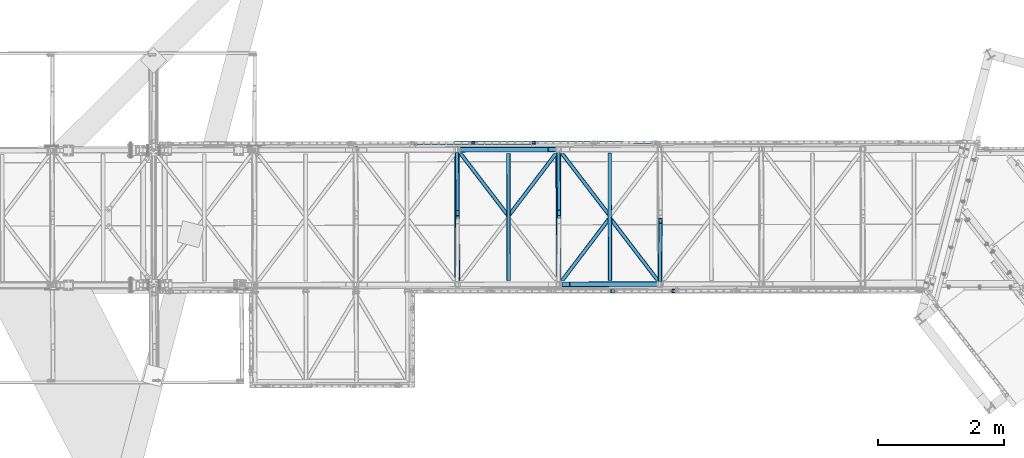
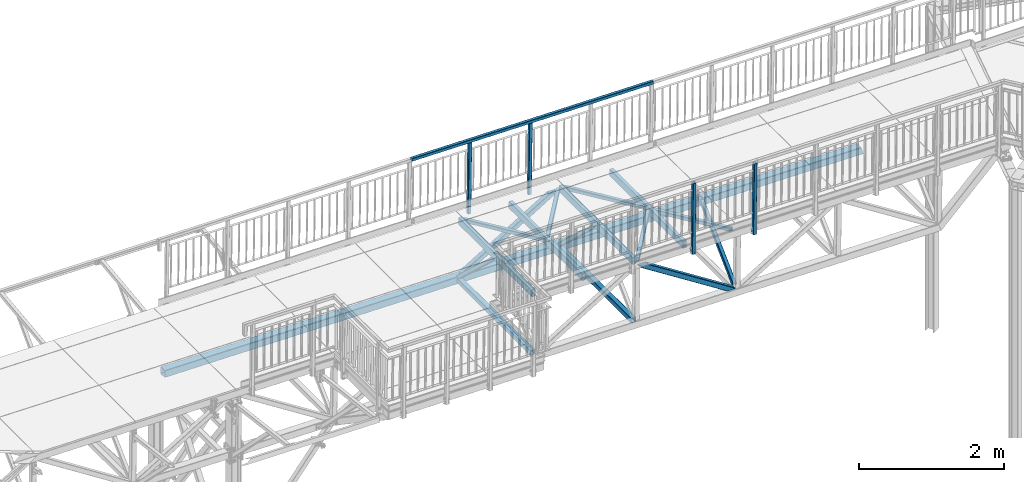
# One storey, part 59 of 169: 22 discrete accessories, 4 elements without a shape of their own.
"""IFC2X3 building model written with IfcOpenShell, lengths in millimetres."""

from ifc_helpers import new_model, si_unit, frame, origin_with_axes, origin_2d_with_axis, place, context, subcontext, project, spatial, rectangle, hollow_rectangle, extrude, boolean, clip, halfspace, material, type_object, element, aggregate, save


model = new_model("IFC2X3")

# Units and contexts
model_context = context("Model", 3, precision=1e-05, world=origin_with_axes())
body_context = subcontext(model_context, "Body", "Model", "MODEL_VIEW")
ifc_project = project(units=[si_unit("LENGTHUNIT", "METRE", prefix="MILLI"), si_unit("AREAUNIT", "SQUARE_METRE"), si_unit("VOLUMEUNIT", "CUBIC_METRE"), si_unit("MASSUNIT", "GRAM", prefix="KILO"), si_unit("TIMEUNIT", "SECOND"), si_unit("PLANEANGLEUNIT", "RADIAN"), si_unit("SOLIDANGLEUNIT", "STERADIAN"), si_unit("THERMODYNAMICTEMPERATUREUNIT", "DEGREE_CELSIUS"), si_unit("LUMINOUSINTENSITYUNIT", "LUMEN")], contexts=[model_context])

# Site, building, storey
site_placement = place(None, origin_with_axes())
site = spatial("IfcSite", under=ifc_project, at=site_placement, Name="Undefined", CompositionType="ELEMENT")
building_placement = place(site_placement, origin_with_axes())
building = spatial("IfcBuilding", under=site, at=building_placement, Name="Undefined", CompositionType="ELEMENT")
storey_placement = place(building_placement, origin_with_axes())
storey = spatial("IfcBuildingStorey", under=building, at=storey_placement, Name="Undefined", CompositionType="ELEMENT", Elevation=0.0)

# Assembly, discrete accessories
assembly_1_placement = place(storey_placement, origin_with_axes())
assembly_1 = element("IfcElementAssembly", 1, at=assembly_1_placement, inside=storey, Name="Steel Assembly", AssemblyPlace="NOTDEFINED", PredefinedType="RIGID_FRAME")
ifc_material_1 = material(Name="STEEL/S355")
discrete_accessory_type_1 = type_object("IfcDiscreteAccessoryType", Name="BEAM")
discrete_accessory_1_placement = place(assembly_1_placement, frame((12562.2974376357, 128.440972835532, 13794.5528924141), z_axis=(0.538381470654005, 0.00100403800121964, 0.842700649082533), x_axis=(0.842699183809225, 0.00157148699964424, -0.538382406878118)))
discrete_accessory_1 = element("IfcDiscreteAccessory", 2, at=discrete_accessory_1_placement, type_object=discrete_accessory_type_1, material=ifc_material_1, Name="BEAM", ObjectType="K80/4", context=body_context, shape_type="CSG", body=[
    boolean("DIFFERENCE", boolean("DIFFERENCE", boolean("DIFFERENCE", boolean("DIFFERENCE", extrude(hollow_rectangle(XDim=80.0, YDim=80.0, WallThickness=4.0, InnerFilletRadius=4.0, OuterFilletRadius=8.0, at=origin_2d_with_axis()), frame((1895.28365458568, 2.8368149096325e-14, 0.0), z_axis=(-1.0, -3.46944695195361e-18, -1.38777878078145e-17), x_axis=(1.73472347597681e-18, -1.0, 0.0)), (0.0, 0.0, 1.0), 1895.28), extrude(rectangle(XDim=122.0, YDim=122.0, at=origin_2d_with_axis()), frame((1733.78268027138, -4.16628931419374e-06, 1076.88375380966), z_axis=(-0.849477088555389, 2.61340201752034e-10, -0.527625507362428), x_axis=(0.527625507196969, -3.47074672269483e-10, -0.849477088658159)), (0.0, 0.0, 1.0), 4082.0)), extrude(rectangle(XDim=82.0, YDim=82.0, at=origin_2d_with_axis()), frame((-1078.99478598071, 3.71883953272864e-07, 1737.1816513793), z_axis=(0.527625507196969, -3.47074672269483e-10, -0.849477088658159), x_axis=(1.73472347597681e-18, -1.0, 0.0)), (0.0, 0.0, 1.0), 4090.0)), extrude(rectangle(XDim=82.0, YDim=82.0, at=origin_2d_with_axis()), frame((799.406100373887, 1.9632717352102e-07, 1764.36290814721), z_axis=(0.527625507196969, -3.47074672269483e-10, -0.849477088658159), x_axis=(1.73472347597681e-18, -1.0, 0.0)), (0.0, 0.0, 1.0), 4154.0)), extrude(rectangle(XDim=122.0, YDim=122.0, at=origin_2d_with_axis()), frame((3629.06603329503, -3.96512357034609e-06, 1076.8835670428), z_axis=(-0.849477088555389, 2.61340201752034e-10, -0.527625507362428), x_axis=(0.527625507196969, -3.47074672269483e-10, -0.849477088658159)), (0.0, 0.0, 1.0), 4082.0)),
])
discrete_accessory_2_placement = place(assembly_1_placement, frame((10935.7263906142, 2265.41144089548, 12815.1018064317), z_axis=(-0.516782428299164, -0.000963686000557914, 0.856116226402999), x_axis=(0.856114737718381, 0.00159654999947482, 0.516783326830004)))
discrete_accessory_2 = element("IfcDiscreteAccessory", 3, at=discrete_accessory_2_placement, type_object=discrete_accessory_type_1, material=ifc_material_1, Name="BEAM", ObjectType="K80/4", context=body_context, shape_type="CSG", body=[
    boolean("DIFFERENCE", boolean("DIFFERENCE", boolean("DIFFERENCE", boolean("DIFFERENCE", extrude(hollow_rectangle(XDim=80.0, YDim=80.0, WallThickness=4.0, InnerFilletRadius=4.0, OuterFilletRadius=8.0, at=origin_2d_with_axis()), frame((1895.28365458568, 2.8368149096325e-14, 0.0), z_axis=(-1.0, -3.46944695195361e-18, -1.38777878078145e-17), x_axis=(1.73472347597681e-18, -1.0, 0.0)), (0.0, 0.0, 1.0), 1895.28), extrude(rectangle(XDim=122.0, YDim=122.0, at=origin_2d_with_axis()), frame((3629.06675549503, -0.000113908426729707, -1076.88375412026), z_axis=(-0.849477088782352, -3.93457825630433e-11, 0.527625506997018), x_axis=(0.527625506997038, -2.13486959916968e-10, 0.849477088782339)), (0.0, 0.0, 1.0), 4082.0)), extrude(rectangle(XDim=82.0, YDim=82.0, at=origin_2d_with_axis()), frame((2982.71976667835, -3.53661638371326e-07, 1750.77218569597), z_axis=(-0.527625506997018, 2.00772915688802e-10, -0.849477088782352), x_axis=(1.73472347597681e-18, -1.0, 0.0)), (0.0, 0.0, 1.0), 4122.0)), extrude(rectangle(XDim=82.0, YDim=82.0, at=origin_2d_with_axis()), frame((1087.43622890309, -6.76905148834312e-07, 1750.7723728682), z_axis=(-0.527625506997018, 2.00772915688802e-10, -0.849477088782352), x_axis=(1.73472347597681e-18, -1.0, 0.0)), (0.0, 0.0, 1.0), 4122.0)), extrude(rectangle(XDim=122.0, YDim=122.0, at=origin_2d_with_axis()), frame((1733.61000419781, -2.8444828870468e-06, -1076.7762420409), z_axis=(-0.849477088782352, -3.93457825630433e-11, 0.527625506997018), x_axis=(-0.527625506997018, 2.00772915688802e-10, -0.849477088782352)), (0.0, 0.0, 1.0), 4081.59)),
])
aggregate(assembly_1, [discrete_accessory_1, discrete_accessory_2])

assembly_2_placement = place(storey_placement, origin_with_axes())
assembly_2 = element("IfcElementAssembly", 4, at=assembly_2_placement, inside=storey, Name="Steel Assembly", AssemblyPlace="NOTDEFINED", PredefinedType="RIGID_FRAME")
discrete_accessory_3_placement = place(assembly_2_placement, frame((13365.2635850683, 1184.94032548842, 13784.3187510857), z_axis=(-0.793802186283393, -0.608092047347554, 0.0101069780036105), x_axis=(0.608043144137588, -0.793866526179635, -0.00771190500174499)))
discrete_accessory_3 = element("IfcDiscreteAccessory", 5, at=discrete_accessory_3_placement, type_object=discrete_accessory_type_1, material=ifc_material_1, Name="BEAM", ObjectType="K60/4", context=body_context, shape_type="CSG", body=[
    boolean("DIFFERENCE", boolean("DIFFERENCE", boolean("DIFFERENCE", extrude(hollow_rectangle(XDim=60.0, YDim=60.0, WallThickness=4.0, InnerFilletRadius=4.0, OuterFilletRadius=8.0, at=origin_2d_with_axis()), frame((1327.04560324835, -1.81783837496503e-12, 1.8913063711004e-12), z_axis=(-1.0, -3.46944695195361e-18, -1.38777878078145e-17), x_axis=(1.73472347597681e-18, -1.0, 0.0)), (0.0, 0.0, 1.0), 1317.77), extrude(rectangle(XDim=122.0, YDim=122.0, at=origin_2d_with_axis()), frame((2559.07206009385, 0.000108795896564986, -1614.6431455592), z_axis=(-0.606610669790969, 1.9093520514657e-10, 0.794999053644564), x_axis=(1.73472347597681e-18, -1.0, 0.0)), (0.0, 0.0, 1.0), 4062.0)), extrude(rectangle(XDim=62.0, YDim=122.0, at=origin_2d_with_axis()), frame((-311.447359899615, 7.92361939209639e-07, -1250.22452235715), z_axis=(0.794999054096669, -5.08714775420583e-10, 0.606610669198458), x_axis=(0.606610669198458, -3.85695368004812e-10, -0.79499905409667)), (0.0, 0.0, 1.0), 4122.0)), halfspace(frame((813.19737539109, -1.17615854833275e-08, 582.760697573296), z_axis=(0.606610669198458, -3.85695368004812e-10, -0.79499905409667), x_axis=(0.0, 1.0, 0.0)), True)),
])
discrete_accessory_4_placement = place(assembly_2_placement, frame((12558.3066592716, 2268.43735667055, 13794.5527999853), z_axis=(-0.793802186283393, -0.608092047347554, 0.0101069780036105), x_axis=(0.608043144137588, -0.793866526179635, -0.00771190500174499)))
discrete_accessory_4 = element("IfcDiscreteAccessory", 6, at=discrete_accessory_4_placement, type_object=discrete_accessory_type_1, material=ifc_material_1, Name="BEAM", ObjectType="K60/4", context=body_context, shape_type="CSG", body=[
    boolean("DIFFERENCE", boolean("DIFFERENCE", boolean("DIFFERENCE", extrude(hollow_rectangle(XDim=60.0, YDim=60.0, WallThickness=4.0, InnerFilletRadius=4.0, OuterFilletRadius=8.0, at=origin_2d_with_axis()), frame((1317.7688721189, 1.14298229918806e-15, -1.89206883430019e-12), z_axis=(-1.0, -3.46944695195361e-18, -1.38777878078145e-17), x_axis=(1.73472347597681e-18, -1.0, 0.0)), (0.0, 0.0, 1.0), 1317.77), extrude(rectangle(XDim=122.0, YDim=122.0, at=origin_2d_with_axis()), frame((1232.02636237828, 0.000109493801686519, -1614.64300936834), z_axis=(-0.606610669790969, 1.9093520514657e-10, 0.794999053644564), x_axis=(0.0, 1.0, 0.0)), (0.0, 0.0, 1.0), 4062.0)), extrude(rectangle(XDim=62.0, YDim=122.0, at=origin_2d_with_axis()), frame((-1638.49305022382, 1.48884142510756e-06, -1250.22459069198), z_axis=(0.794999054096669, -5.08714775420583e-10, 0.606610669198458), x_axis=(0.606610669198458, -3.85695368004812e-10, -0.79499905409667)), (0.0, 0.0, 1.0), 4122.0)), halfspace(frame((2103.84633729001, 1.13759597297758e-08, 630.460640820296), z_axis=(-0.606610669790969, 1.9093520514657e-10, 0.794999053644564), x_axis=(1.73472347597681e-18, -1.0, 0.0)), True)),
])
discrete_accessory_5_placement = place(assembly_2_placement, frame((12562.2974374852, 128.441077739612, 13794.5528923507), z_axis=(0.796064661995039, -0.605127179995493, -0.0101069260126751), x_axis=(0.605078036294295, 0.796128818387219, -0.00771197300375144)))
discrete_accessory_5 = element("IfcDiscreteAccessory", 7, at=discrete_accessory_5_placement, type_object=discrete_accessory_type_1, material=ifc_material_1, Name="BEAM", ObjectType="K60/4", context=body_context, shape_type="CSG", body=[
    boolean("DIFFERENCE", boolean("DIFFERENCE", boolean("DIFFERENCE", extrude(hollow_rectangle(XDim=60.0, YDim=60.0, WallThickness=4.0, InnerFilletRadius=4.0, OuterFilletRadius=8.0, at=origin_2d_with_axis()), frame((1317.88045895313, 1.14307908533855e-15, -1.87685778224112e-12), z_axis=(-1.0, -3.46944695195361e-18, -1.38777878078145e-17), x_axis=(1.73472347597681e-18, -1.0, 0.0)), (0.0, 0.0, 1.0), 1317.88), extrude(rectangle(XDim=122.0, YDim=122.0, at=origin_2d_with_axis()), frame((1232.02617983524, 0.000108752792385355, 1614.64314702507), z_axis=(-0.606610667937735, 2.83045446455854e-10, -0.794999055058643), x_axis=(1.73472347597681e-18, -1.0, 0.0)), (0.0, 0.0, 1.0), 4062.0)), extrude(rectangle(XDim=62.0, YDim=122.0, at=origin_2d_with_axis()), frame((1638.49296551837, -1.93246750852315e-06, -1250.22451956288), z_axis=(-0.794999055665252, -4.2238609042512e-08, 0.606610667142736), x_axis=(0.606610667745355, -4.65838344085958e-10, 0.794999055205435)), (0.0, 0.0, 1.0), 4122.0)), halfspace(frame((513.848229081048, 1.26783561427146e-08, 582.760696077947), z_axis=(-0.606610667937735, 2.83045446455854e-10, -0.794999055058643), x_axis=(1.73472347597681e-18, -1.0, 0.0)), True)),
])
discrete_accessory_6_placement = place(assembly_2_placement, frame((13367.2310015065, 129.942159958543, 13784.3187967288), z_axis=(0.012713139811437, 2.3750999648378e-05, 0.999919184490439), x_axis=(-0.0018648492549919, 0.999998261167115, -4.2996762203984e-08)))
discrete_accessory_6 = element("IfcDiscreteAccessory", 8, at=discrete_accessory_6_placement, type_object=discrete_accessory_type_1, material=ifc_material_1, Name="BEAM", ObjectType="RHS120*60*3", context=body_context, shape_type="Clipping", body=[
    clip(clip(extrude(hollow_rectangle(XDim=60.0, YDim=120.0, WallThickness=3.0, InnerFilletRadius=3.0, OuterFilletRadius=6.0, at=origin_2d_with_axis()), frame((2079.99988425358, -2.58114747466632e-16, -1.81898421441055e-12), z_axis=(-1.0, -3.46944695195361e-18, -1.38777878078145e-17), x_axis=(1.73472347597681e-18, -1.0, 0.0)), (0.0, 0.0, 1.0), 2020.0), halfspace(frame((2079.99984112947, 4.96547727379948e-08, 999.999997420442), z_axis=(-1.0, -3.46944695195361e-18, -1.38777878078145e-17), x_axis=(1.73472347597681e-18, -1.0, 0.0)), True)), halfspace(frame((59.9998947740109, 1.52502366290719e-08, 999.99999999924), z_axis=(1.0, 0.0, 0.0), x_axis=(0.0, 1.0, 0.0)), True)),
])
discrete_accessory_7_placement = place(assembly_2_placement, frame((11755.3405111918, 1211.93810888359, 13804.7869408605), z_axis=(0.796064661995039, -0.605127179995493, -0.0101069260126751), x_axis=(0.605078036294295, 0.796128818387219, -0.00771197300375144)))
discrete_accessory_7 = element("IfcDiscreteAccessory", 9, at=discrete_accessory_7_placement, type_object=discrete_accessory_type_1, material=ifc_material_1, Name="BEAM", ObjectType="K60/4", context=body_context, shape_type="CSG", body=[
    boolean("DIFFERENCE", boolean("DIFFERENCE", boolean("DIFFERENCE", extrude(hollow_rectangle(XDim=60.0, YDim=60.0, WallThickness=4.0, InnerFilletRadius=4.0, OuterFilletRadius=8.0, at=origin_2d_with_axis()), frame((1327.04560324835, -1.81783837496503e-12, 1.8913063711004e-12), z_axis=(-1.0, -3.46944695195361e-18, -1.38777878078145e-17), x_axis=(1.73472347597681e-18, -1.0, 0.0)), (0.0, 0.0, 1.0), 1317.88), extrude(rectangle(XDim=122.0, YDim=122.0, at=origin_2d_with_axis()), frame((2559.07166903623, 0.000108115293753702, 1614.64301073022), z_axis=(-0.606610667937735, 2.83045446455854e-10, -0.794999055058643), x_axis=(0.0, 1.0, 0.0)), (0.0, 0.0, 1.0), 4062.0)), extrude(rectangle(XDim=62.0, YDim=122.0, at=origin_2d_with_axis()), frame((2965.5386644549, -2.59535426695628e-06, -1250.22459037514), z_axis=(-0.794999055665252, -4.2238609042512e-08, 0.606610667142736), x_axis=(0.606610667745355, -4.65838344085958e-10, 0.794999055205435)), (0.0, 0.0, 1.0), 4122.0)), halfspace(frame((-776.800733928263, -1.5232217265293e-08, 630.460639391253), z_axis=(0.606610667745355, -4.65838344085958e-10, 0.794999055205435), x_axis=(0.0, 1.0, 0.0)), True)),
])
discrete_accessory_8_placement = place(assembly_2_placement, frame((10948.4395309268, 2265.43519219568, 13815.0209908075), z_axis=(-0.793802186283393, -0.608092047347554, 0.0101069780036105), x_axis=(0.608043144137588, -0.793866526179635, -0.00771190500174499)))
discrete_accessory_8 = element("IfcDiscreteAccessory", 10, at=discrete_accessory_8_placement, type_object=discrete_accessory_type_1, material=ifc_material_1, Name="BEAM", ObjectType="K60/4", context=body_context, shape_type="CSG", body=[
    boolean("DIFFERENCE", boolean("DIFFERENCE", boolean("DIFFERENCE", extrude(hollow_rectangle(XDim=60.0, YDim=60.0, WallThickness=4.0, InnerFilletRadius=4.0, OuterFilletRadius=8.0, at=origin_2d_with_axis()), frame((1317.7688721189, 1.14298229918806e-15, -1.89206883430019e-12), z_axis=(-1.0, -3.46944695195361e-18, -1.38777878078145e-17), x_axis=(1.73472347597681e-18, -1.0, 0.0)), (0.0, 0.0, 1.0), 1317.77), extrude(rectangle(XDim=122.0, YDim=122.0, at=origin_2d_with_axis()), frame((1232.02636237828, 0.000109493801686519, -1614.64300936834), z_axis=(-0.606610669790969, 1.9093520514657e-10, 0.794999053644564), x_axis=(0.0, 1.0, 0.0)), (0.0, 0.0, 1.0), 4062.0)), extrude(rectangle(XDim=62.0, YDim=122.0, at=origin_2d_with_axis()), frame((-1638.49305022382, 1.48884142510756e-06, -1250.22459069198), z_axis=(0.794999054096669, -5.08714775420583e-10, 0.606610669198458), x_axis=(0.606610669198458, -3.85695368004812e-10, -0.79499905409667)), (0.0, 0.0, 1.0), 4122.0)), halfspace(frame((2103.84633729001, 1.13759597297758e-08, 630.460640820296), z_axis=(-0.606610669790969, 1.9093520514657e-10, 0.794999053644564), x_axis=(1.73472347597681e-18, -1.0, 0.0)), True)),
])
discrete_accessory_9_placement = place(assembly_2_placement, frame((11757.3638731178, 126.939995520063, 13804.7869877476), z_axis=(0.012713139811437, 2.3750999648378e-05, 0.999919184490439), x_axis=(-0.0018648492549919, 0.999998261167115, -4.2996762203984e-08)))
discrete_accessory_9 = element("IfcDiscreteAccessory", 11, at=discrete_accessory_9_placement, type_object=discrete_accessory_type_1, material=ifc_material_1, Name="BEAM", ObjectType="RHS120*60*3", context=body_context, shape_type="Clipping", body=[
    clip(clip(extrude(hollow_rectangle(XDim=60.0, YDim=120.0, WallThickness=3.0, InnerFilletRadius=3.0, OuterFilletRadius=6.0, at=origin_2d_with_axis()), frame((2079.99988425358, -2.58114747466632e-16, -1.81898421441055e-12), z_axis=(-1.0, -3.46944695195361e-18, -1.38777878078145e-17), x_axis=(1.73472347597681e-18, -1.0, 0.0)), (0.0, 0.0, 1.0), 2020.0), halfspace(frame((2079.99984112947, 4.96547727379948e-08, 999.999997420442), z_axis=(-1.0, -3.46944695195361e-18, -1.38777878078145e-17), x_axis=(1.73472347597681e-18, -1.0, 0.0)), True)), halfspace(frame((59.9998947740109, 1.52502366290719e-08, 999.99999999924), z_axis=(1.0, 0.0, 0.0), x_axis=(0.0, 1.0, 0.0)), True)),
])
discrete_accessory_10_placement = place(assembly_2_placement, frame((14159.4514262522, 131.419490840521, 12774.1655167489), z_axis=(-0.0105615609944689, 0.682786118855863, -0.730541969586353), x_axis=(0.00731813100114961, 0.730615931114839, 0.682749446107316)))
discrete_accessory_10 = element("IfcDiscreteAccessory", 12, at=discrete_accessory_10_placement, type_object=discrete_accessory_type_1, material=ifc_material_1, Name="BEAM", ObjectType="K60/4", context=body_context, shape_type="CSG", body=[
    boolean("DIFFERENCE", boolean("DIFFERENCE", boolean("DIFFERENCE", boolean("DIFFERENCE", extrude(hollow_rectangle(XDim=60.0, YDim=60.0, WallThickness=4.0, InnerFilletRadius=4.0, OuterFilletRadius=8.0, at=origin_2d_with_axis()), frame((1409.62306429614, 2.44530622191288e-15, -3.48147920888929e-12), z_axis=(-1.0, -3.46944695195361e-18, -1.38777878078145e-17), x_axis=(1.73472347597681e-18, -1.0, 0.0)), (0.0, 0.0, 1.0), 1409.62), extrude(rectangle(XDim=122.0, YDim=122.0, at=origin_2d_with_axis()), frame((-3.0605420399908e-06, 2029.999999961, -0.000155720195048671), z_axis=(1.73472347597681e-18, -1.0, 0.0), x_axis=(-0.682804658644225, 7.91412114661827e-10, 0.730600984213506)), (0.0, 0.0, 1.0), 4060.0)), extrude(rectangle(XDim=82.0, YDim=82.0, at=origin_2d_with_axis()), frame((1491.15653144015, 6.98136768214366e-07, 1393.60423636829), z_axis=(-0.730600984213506, -8.41296776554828e-11, -0.682804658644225), x_axis=(0.0, 1.0, 0.0)), (0.0, 0.0, 1.0), 4082.0)), extrude(rectangle(XDim=82.0, YDim=82.0, at=origin_2d_with_axis()), frame((1393.60423162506, -1.60659598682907e-06, -1491.15668038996), z_axis=(-0.682804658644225, 7.91412114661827e-10, 0.730600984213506), x_axis=(-0.730600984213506, -8.41296776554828e-11, -0.682804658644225)), (0.0, 0.0, 1.0), 4082.0)), halfspace(frame((2154.18041553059, 4.7799403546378e-08, 726.64071778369), z_axis=(-0.682804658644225, 7.91412114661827e-10, 0.730600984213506), x_axis=(1.73472347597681e-18, -1.0, 0.0)), True)),
])
discrete_accessory_11_placement = place(assembly_2_placement, frame((12560.3020484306, 1198.4392172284, 13794.5528460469), z_axis=(-0.00801490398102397, -0.682820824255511, -0.730541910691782), x_axis=(-0.0100430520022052, 0.730583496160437, -0.682749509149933)))
discrete_accessory_11 = element("IfcDiscreteAccessory", 13, at=discrete_accessory_11_placement, type_object=discrete_accessory_type_1, material=ifc_material_1, Name="BEAM", ObjectType="K60/4", context=body_context, shape_type="CSG", body=[
    boolean("DIFFERENCE", boolean("DIFFERENCE", boolean("DIFFERENCE", boolean("DIFFERENCE", extrude(hollow_rectangle(XDim=60.0, YDim=60.0, WallThickness=4.0, InnerFilletRadius=4.0, OuterFilletRadius=8.0, at=origin_2d_with_axis()), frame((1464.54771171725, -2.54058529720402e-15, 1.73769067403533e-12), z_axis=(-1.0, -3.46944695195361e-18, -1.38777878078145e-17), x_axis=(1.73472347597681e-18, -1.0, 0.0)), (0.0, 0.0, 1.0), 1409.7), extrude(rectangle(XDim=122.0, YDim=122.0, at=origin_2d_with_axis()), frame((1464.54763377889, 2029.99999998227, -7.71977473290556e-05), z_axis=(1.73472347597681e-18, -1.0, 0.0), x_axis=(0.682804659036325, -5.74226128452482e-10, 0.730600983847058)), (0.0, 0.0, 1.0), 4060.0)), extrude(rectangle(XDim=82.0, YDim=82.0, at=origin_2d_with_axis()), frame((2955.70431769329, 3.22820304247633e-06, -1393.60430822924), z_axis=(-0.730600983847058, -6.40306815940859e-10, 0.682804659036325), x_axis=(0.0, 1.0, 0.0)), (0.0, 0.0, 1.0), 4082.0)), extrude(rectangle(XDim=82.0, YDim=82.0, at=origin_2d_with_axis()), frame((70.9434023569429, 1.26172341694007e-06, -1491.15660917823), z_axis=(0.682804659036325, -5.74226128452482e-10, 0.730600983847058), x_axis=(-0.730600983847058, -6.40306815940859e-10, 0.682804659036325)), (0.0, 0.0, 1.0), 4082.0)), halfspace(frame((-689.632704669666, -3.43825377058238e-08, 726.640717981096), z_axis=(0.682804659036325, -5.74226128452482e-10, 0.730600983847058), x_axis=(0.0, 1.0, 0.0)), True)),
])
discrete_accessory_12_placement = place(assembly_2_placement, frame((10950.4349200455, 1195.43705279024, 13815.0210370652), z_axis=(-0.00801490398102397, -0.682820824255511, -0.730541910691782), x_axis=(-0.0100430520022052, 0.730583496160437, -0.682749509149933)))
discrete_accessory_12 = element("IfcDiscreteAccessory", 14, at=discrete_accessory_12_placement, type_object=discrete_accessory_type_1, material=ifc_material_1, Name="BEAM", ObjectType="K60/4", context=body_context, shape_type="CSG", body=[
    boolean("DIFFERENCE", boolean("DIFFERENCE", boolean("DIFFERENCE", boolean("DIFFERENCE", extrude(hollow_rectangle(XDim=60.0, YDim=60.0, WallThickness=4.0, InnerFilletRadius=4.0, OuterFilletRadius=8.0, at=origin_2d_with_axis()), frame((1464.54771171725, -2.54058529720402e-15, 1.73769067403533e-12), z_axis=(-1.0, -3.46944695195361e-18, -1.38777878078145e-17), x_axis=(1.73472347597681e-18, -1.0, 0.0)), (0.0, 0.0, 1.0), 1409.7), extrude(rectangle(XDim=122.0, YDim=122.0, at=origin_2d_with_axis()), frame((1464.54763377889, 2029.99999998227, -7.71977473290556e-05), z_axis=(1.73472347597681e-18, -1.0, 0.0), x_axis=(0.682804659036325, -5.74226128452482e-10, 0.730600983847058)), (0.0, 0.0, 1.0), 4060.0)), extrude(rectangle(XDim=82.0, YDim=82.0, at=origin_2d_with_axis()), frame((2955.70431769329, 3.22820304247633e-06, -1393.60430822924), z_axis=(-0.730600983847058, -6.40306815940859e-10, 0.682804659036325), x_axis=(0.0, 1.0, 0.0)), (0.0, 0.0, 1.0), 4082.0)), extrude(rectangle(XDim=82.0, YDim=82.0, at=origin_2d_with_axis()), frame((70.9434023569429, 1.26172341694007e-06, -1491.15660917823), z_axis=(0.682804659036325, -5.74226128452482e-10, 0.730600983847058), x_axis=(-0.730600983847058, -6.40306815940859e-10, 0.682804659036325)), (0.0, 0.0, 1.0), 4082.0)), halfspace(frame((-689.632704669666, -3.43825377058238e-08, 726.640717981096), z_axis=(0.682804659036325, -5.74226128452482e-10, 0.730600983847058), x_axis=(0.0, 1.0, 0.0)), True)),
])
discrete_accessory_13_placement = place(assembly_2_placement, frame((6122.05393022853, 2256.43465264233, 12876.3039673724), z_axis=(0.00186484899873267, -0.999998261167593, 4.28757666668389e-08), x_axis=(0.9999174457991, 0.00186469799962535, -0.0127131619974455)))
discrete_accessory_13 = element("IfcDiscreteAccessory", 15, at=discrete_accessory_13_placement, type_object=discrete_accessory_type_1, material=ifc_material_1, Name="BEAM", ObjectType="RHS120*4", context=body_context, shape_type="Clipping", body=[
    clip(clip(extrude(hollow_rectangle(XDim=120.0, YDim=120.0, WallThickness=4.0, InnerFilletRadius=4.0, OuterFilletRadius=8.0, at=origin_2d_with_axis()), frame((11272.978314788, 1.79943390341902e-12, -4.55908662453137e-13), z_axis=(-1.0, -3.46944695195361e-18, -1.38777878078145e-17), x_axis=(1.73472347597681e-18, -1.0, 0.0)), (0.0, 0.0, 1.0), 11182.71), halfspace(frame((11236.4203164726, 60.0000001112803, -4.2042602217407e-06), z_axis=(-0.95965596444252, -0.281176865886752, 2.93481890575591e-10), x_axis=(0.0, 0.0, 1.0)), True)), halfspace(frame((109.249493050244, 2.34649633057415e-10, -59.9999999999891), z_axis=(0.999919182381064, 0.0127133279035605, 1.32546567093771e-08), x_axis=(0.012713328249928, -0.999919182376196, -9.63501842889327e-07)), True)),
])
discrete_accessory_14_placement = place(assembly_2_placement, frame((12549.5842978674, 128.417326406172, 12794.6337077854), z_axis=(0.012713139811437, 2.3750999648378e-05, 0.999919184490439), x_axis=(-0.0018648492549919, 0.999998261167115, -4.2996762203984e-08)))
discrete_accessory_14 = element("IfcDiscreteAccessory", 16, at=discrete_accessory_14_placement, type_object=discrete_accessory_type_1, material=ifc_material_1, Name="BEAM", ObjectType="K80/4", context=body_context, shape_type="Clipping", body=[
    clip(clip(extrude(hollow_rectangle(XDim=80.0, YDim=80.0, WallThickness=4.0, InnerFilletRadius=4.0, OuterFilletRadius=8.0, at=origin_2d_with_axis()), frame((2079.99999999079, 5.70364343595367e-14, -1.83064995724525e-18), z_axis=(-1.0, -3.46944695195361e-18, -1.38777878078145e-17), x_axis=(1.73472347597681e-18, -1.0, 0.0)), (0.0, 0.0, 1.0), 2020.0), halfspace(frame((2079.99999986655, -1.53990526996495e-08, 999.999999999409), z_axis=(-1.0, -3.46944695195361e-18, -1.38777878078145e-17), x_axis=(1.73472347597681e-18, -1.0, 0.0)), True)), halfspace(frame((59.9998947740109, 1.52502366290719e-08, 999.99999999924), z_axis=(1.0, 0.0, 0.0), x_axis=(0.0, 1.0, 0.0)), True)),
])
discrete_accessory_15_placement = place(assembly_2_placement, frame((10939.7171694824, 125.415161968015, 12815.1018988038), z_axis=(0.012713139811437, 2.3750999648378e-05, 0.999919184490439), x_axis=(-0.0018648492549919, 0.999998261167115, -4.2996762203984e-08)))
discrete_accessory_15 = element("IfcDiscreteAccessory", 17, at=discrete_accessory_15_placement, type_object=discrete_accessory_type_1, material=ifc_material_1, Name="BEAM", ObjectType="K80/4", context=body_context, shape_type="Clipping", body=[
    clip(clip(extrude(hollow_rectangle(XDim=80.0, YDim=80.0, WallThickness=4.0, InnerFilletRadius=4.0, OuterFilletRadius=8.0, at=origin_2d_with_axis()), frame((2079.99999999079, 5.70364343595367e-14, -1.83064995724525e-18), z_axis=(-1.0, -3.46944695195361e-18, -1.38777878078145e-17), x_axis=(1.73472347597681e-18, -1.0, 0.0)), (0.0, 0.0, 1.0), 2020.0), halfspace(frame((2079.99999986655, -1.53990526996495e-08, 999.999999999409), z_axis=(-1.0, -3.46944695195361e-18, -1.38777878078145e-17), x_axis=(1.73472347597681e-18, -1.0, 0.0)), True)), halfspace(frame((59.9998947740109, 1.52502366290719e-08, 999.99999999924), z_axis=(1.0, 0.0, 0.0), x_axis=(0.0, 1.0, 0.0)), True)),
])
discrete_accessory_16_placement = place(assembly_2_placement, frame((12562.2974374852, 128.441077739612, 13794.5528923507), z_axis=(0.012713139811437, 2.3750999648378e-05, 0.999919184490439), x_axis=(-0.0018648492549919, 0.999998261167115, -4.2996762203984e-08)))
discrete_accessory_16 = element("IfcDiscreteAccessory", 18, at=discrete_accessory_16_placement, type_object=discrete_accessory_type_1, material=ifc_material_1, Name="BEAM", ObjectType="RHS120*60*3", context=body_context, shape_type="Clipping", body=[
    clip(clip(extrude(hollow_rectangle(XDim=60.0, YDim=120.0, WallThickness=3.0, InnerFilletRadius=3.0, OuterFilletRadius=6.0, at=origin_2d_with_axis()), frame((2079.99988425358, -2.58114747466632e-16, -1.81898421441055e-12), z_axis=(-1.0, -3.46944695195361e-18, -1.38777878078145e-17), x_axis=(1.73472347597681e-18, -1.0, 0.0)), (0.0, 0.0, 1.0), 2020.0), halfspace(frame((2079.99984112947, 4.96547727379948e-08, 999.999997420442), z_axis=(-1.0, -3.46944695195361e-18, -1.38777878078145e-17), x_axis=(1.73472347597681e-18, -1.0, 0.0)), True)), halfspace(frame((59.9998947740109, 1.52502366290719e-08, 999.99999999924), z_axis=(1.0, 0.0, 0.0), x_axis=(0.0, 1.0, 0.0)), True)),
])
discrete_accessory_17_placement = place(assembly_2_placement, frame((10952.4303090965, 125.438913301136, 13815.0210833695), z_axis=(0.012713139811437, 2.3750999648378e-05, 0.999919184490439), x_axis=(-0.0018648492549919, 0.999998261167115, -4.2996762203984e-08)))
discrete_accessory_17 = element("IfcDiscreteAccessory", 19, at=discrete_accessory_17_placement, type_object=discrete_accessory_type_1, material=ifc_material_1, Name="BEAM", ObjectType="RHS120*60*3", context=body_context, shape_type="Clipping", body=[
    clip(clip(extrude(hollow_rectangle(XDim=60.0, YDim=120.0, WallThickness=3.0, InnerFilletRadius=3.0, OuterFilletRadius=6.0, at=origin_2d_with_axis()), frame((2079.99988425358, -2.58114747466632e-16, -1.81898421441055e-12), z_axis=(-1.0, -3.46944695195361e-18, -1.38777878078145e-17), x_axis=(1.73472347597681e-18, -1.0, 0.0)), (0.0, 0.0, 1.0), 2020.0), halfspace(frame((2079.99984112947, 4.96547727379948e-08, 999.999997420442), z_axis=(-1.0, -3.46944695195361e-18, -1.38777878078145e-17), x_axis=(1.73472347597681e-18, -1.0, 0.0)), True)), halfspace(frame((59.9998947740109, 1.52502366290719e-08, 999.99999999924), z_axis=(1.0, 0.0, 0.0), x_axis=(0.0, 1.0, 0.0)), True)),
])
aggregate(assembly_2, [discrete_accessory_3, discrete_accessory_4, discrete_accessory_5, discrete_accessory_6, discrete_accessory_7, discrete_accessory_8, discrete_accessory_9, discrete_accessory_10, discrete_accessory_11, discrete_accessory_12, discrete_accessory_13, discrete_accessory_14, discrete_accessory_15, discrete_accessory_16, discrete_accessory_17])

# Assembly, discrete accessory
assembly_3_placement = place(storey_placement, origin_with_axes())
assembly_3 = element("IfcElementAssembly", 20, at=assembly_3_placement, inside=storey, Name="Steel Assembly", AssemblyPlace="NOTDEFINED", PredefinedType="RIGID_FRAME")
ifc_material_2 = material(Name="STEEL/S235")
discrete_accessory_type_2 = type_object("IfcDiscreteAccessoryType", Name="PORĘCZ")
discrete_accessory_18_placement = place(assembly_3_placement, frame((14123.7762339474, 2381.35685953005, 14934.7403395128), z_axis=(0.00186484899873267, -0.999998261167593, 4.28757666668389e-08), x_axis=(-0.999917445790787, -0.00186469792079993, 0.0127131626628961)))
discrete_accessory_18 = element("IfcDiscreteAccessory", 21, at=discrete_accessory_18_placement, type_object=discrete_accessory_type_2, material=ifc_material_2, Name="PORĘCZ", ObjectType="SHS50*3", context=body_context, shape_type="Clipping", body=[
    clip(extrude(hollow_rectangle(XDim=50.0, YDim=50.0, WallThickness=3.0, InnerFilletRadius=3.0, OuterFilletRadius=6.0, at=origin_2d_with_axis()), frame((3861.77783444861, 6.69911666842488e-15, 9.43580216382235e-16), z_axis=(-1.0, -3.46944695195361e-18, -1.38777878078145e-17), x_axis=(1.73472347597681e-18, -1.0, 0.0)), (0.0, 0.0, 1.0), 3861.78), halfspace(frame((3861.77783470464, -1.27147359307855e-09, 1000.00000000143), z_axis=(-1.0, -3.46944695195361e-18, -1.38777878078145e-17), x_axis=(1.73472347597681e-18, -1.0, 0.0)), True)),
])

# Assembly, discrete accessories
assembly_4_placement = place(storey_placement, origin_with_axes())
assembly_4 = element("IfcElementAssembly", 22, at=assembly_4_placement, inside=storey, Name="Steel Assembly", AssemblyPlace="NOTDEFINED", PredefinedType="RIGID_FRAME")
discrete_accessory_type_3 = type_object("IfcDiscreteAccessoryType", Name="STANCHION")
discrete_accessory_19_placement = place(assembly_4_placement, frame((14378.0123814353, 21.8268209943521, 13831.4750807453), z_axis=(0.00186484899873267, -0.999998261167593, 4.28757666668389e-08), x_axis=(0.012713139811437, 2.3750999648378e-05, 0.999919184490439)))
discrete_accessory_19 = element("IfcDiscreteAccessory", 23, at=discrete_accessory_19_placement, type_object=discrete_accessory_type_3, material=ifc_material_2, Name="STANCHION", ObjectType="SHS50*3", context=body_context, shape_type="Clipping", body=[
    clip(clip(extrude(hollow_rectangle(XDim=50.0, YDim=50.0, WallThickness=3.0, InnerFilletRadius=3.0, OuterFilletRadius=6.0, at=origin_2d_with_axis()), frame((1074.99999999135, -5.68489533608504e-14, -9.13224357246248e-13), z_axis=(-1.0, -3.46944695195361e-18, -1.38777878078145e-17), x_axis=(1.73472347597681e-18, -1.0, 0.0)), (0.0, 0.0, 1.0), 1195.0), halfspace(frame((1075.00000000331, 25.0000002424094, 2.62741739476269e-09), z_axis=(1.0, 0.0, 0.0), x_axis=(0.0, 0.0, 1.0)), False)), halfspace(frame((-120.000000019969, -1025.00000000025, -5.14306819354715e-10), z_axis=(1.0, 0.0, 0.0), x_axis=(0.0, 0.0, 1.0)), True)),
])
discrete_accessory_20_placement = place(assembly_4_placement, frame((13403.0928717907, 20.0087404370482, 13843.8704136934), z_axis=(0.00186484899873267, -0.999998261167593, 4.28757666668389e-08), x_axis=(0.012713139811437, 2.3750999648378e-05, 0.999919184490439)))
discrete_accessory_20 = element("IfcDiscreteAccessory", 24, at=discrete_accessory_20_placement, type_object=discrete_accessory_type_3, material=ifc_material_2, Name="STANCHION", ObjectType="SHS50*3", context=body_context, shape_type="Clipping", body=[
    clip(clip(extrude(hollow_rectangle(XDim=50.0, YDim=50.0, WallThickness=3.0, InnerFilletRadius=3.0, OuterFilletRadius=6.0, at=origin_2d_with_axis()), frame((1074.99999999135, -5.68489533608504e-14, -9.13224357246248e-13), z_axis=(-1.0, -3.46944695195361e-18, -1.38777878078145e-17), x_axis=(1.73472347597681e-18, -1.0, 0.0)), (0.0, 0.0, 1.0), 1195.0), halfspace(frame((1075.00000000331, 25.0000002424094, 2.62741739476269e-09), z_axis=(1.0, 0.0, 0.0), x_axis=(0.0, 0.0, 1.0)), False)), halfspace(frame((-120.000000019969, -1025.00000000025, -5.14306819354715e-10), z_axis=(1.0, 0.0, 0.0), x_axis=(0.0, 0.0, 1.0)), True)),
])
aggregate(assembly_4, [discrete_accessory_19, discrete_accessory_20])

# Discrete accessory
discrete_accessory_21_placement = place(assembly_3_placement, frame((11184.9498820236, 2375.87633632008, 13872.0162953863), z_axis=(-0.0018648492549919, 0.999998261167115, -4.2996762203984e-08), x_axis=(0.012713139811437, 2.3750999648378e-05, 0.999919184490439)))
discrete_accessory_21 = element("IfcDiscreteAccessory", 25, at=discrete_accessory_21_placement, type_object=discrete_accessory_type_3, material=ifc_material_2, Name="STANCHION", ObjectType="SHS50*3", context=body_context, shape_type="Clipping", body=[
    clip(clip(extrude(hollow_rectangle(XDim=50.0, YDim=50.0, WallThickness=3.0, InnerFilletRadius=3.0, OuterFilletRadius=6.0, at=origin_2d_with_axis()), frame((1074.99999999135, -5.68489533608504e-14, -9.13224357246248e-13), z_axis=(-1.0, -3.46944695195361e-18, -1.38777878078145e-17), x_axis=(1.73472347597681e-18, -1.0, 0.0)), (0.0, 0.0, 1.0), 1195.0), halfspace(frame((1074.99999999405, -25.000000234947, -7.63429852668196e-09), z_axis=(1.0, 0.0, 0.0), x_axis=(0.0, 0.0, 1.0)), False)), halfspace(frame((-120.000000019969, -1025.00000000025, -5.14306819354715e-10), z_axis=(1.0, 0.0, 0.0), x_axis=(0.0, 0.0, 1.0)), True)),
])

discrete_accessory_22_placement = place(assembly_3_placement, frame((12151.5645359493, 2377.67892954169, 13859.726552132), z_axis=(-0.0018648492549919, 0.999998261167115, -4.2996762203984e-08), x_axis=(0.012713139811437, 2.3750999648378e-05, 0.999919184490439)))
discrete_accessory_22 = element("IfcDiscreteAccessory", 26, at=discrete_accessory_22_placement, type_object=discrete_accessory_type_3, material=ifc_material_2, Name="STANCHION", ObjectType="SHS50*3", context=body_context, shape_type="Clipping", body=[
    clip(clip(extrude(hollow_rectangle(XDim=50.0, YDim=50.0, WallThickness=3.0, InnerFilletRadius=3.0, OuterFilletRadius=6.0, at=origin_2d_with_axis()), frame((1074.99999999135, -5.68489533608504e-14, -9.13224357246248e-13), z_axis=(-1.0, -3.46944695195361e-18, -1.38777878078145e-17), x_axis=(1.73472347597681e-18, -1.0, 0.0)), (0.0, 0.0, 1.0), 1195.0), halfspace(frame((1074.99999999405, -25.000000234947, -7.63429852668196e-09), z_axis=(1.0, 0.0, 0.0), x_axis=(0.0, 0.0, 1.0)), False)), halfspace(frame((-120.000000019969, -1025.00000000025, -5.14306819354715e-10), z_axis=(1.0, 0.0, 0.0), x_axis=(0.0, 0.0, 1.0)), True)),
])

aggregate(assembly_3, [discrete_accessory_18, discrete_accessory_21, discrete_accessory_22])

save(model, "model.ifc")
